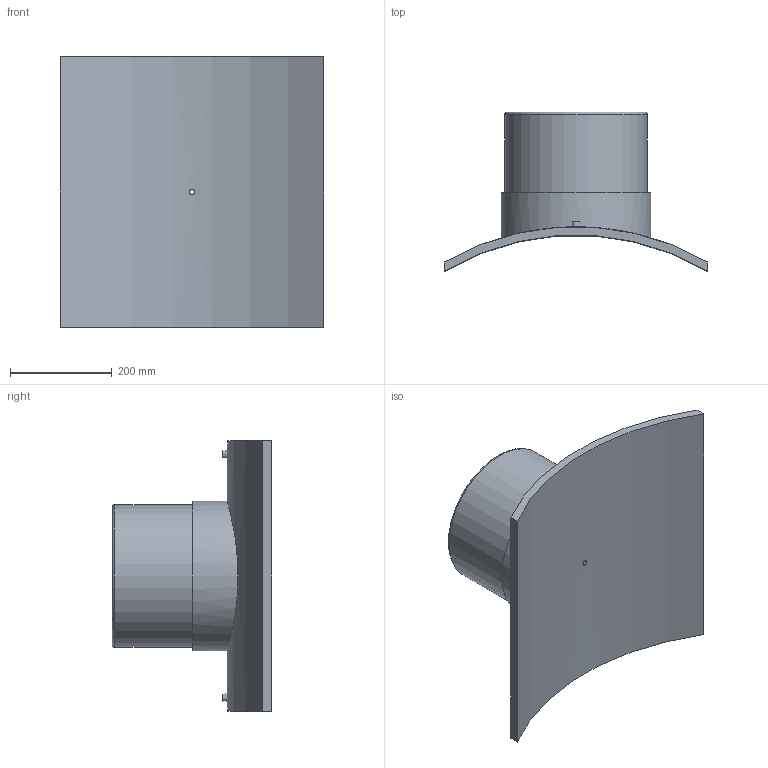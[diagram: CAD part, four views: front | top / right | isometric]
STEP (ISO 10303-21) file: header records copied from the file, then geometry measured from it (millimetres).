
FILE_DESCRIPTION(/* description */ ('PLASSON BRANCH SADDLE 1000x280'),/* implementation_level */ '2;1');
FILE_NAME(/* name */ 'C:\Dropbox\99-16-3568-Processing\ElectroFusion Fittings\495803\4958031000280T.ipt.stp',/* time_stamp */ '2021-02-25T09:43:10+02:00',/* author */ ('KIM'),/* organization */ (''),/* preprocessor_version */ 'ST-DEVELOPER v17.2',/* originating_system */ 'Autodesk Inventor 2019',/* authorisation */ '');
FILE_SCHEMA (('AUTOMOTIVE_DESIGN { 1 0 10303 214 3 1 1 }'));
Length unit declared in the file: millimetre
Products named in the file (1): 4958031000280T
Bounding box: 516 x 312.71 x 530 mm (x, y, z)
Volume: 10248222.4 mm3; surface area: 991607.8 mm2
Topology: 1 solids, 1 shells, 29 faces, 60 edges, 43 vertices
Faces by surface type: plane 13, cylinder 12, torus 2, cone 2
Full cylindrical faces by diameter (mm): 4 x2, 9.6 x1, 10 x2, 16 x1, 224 x1, 280 x1, 294 x1
Entity records: 1086 total; most frequent: CARTESIAN_POINT 400, DIRECTION 139, ORIENTED_EDGE 120, EDGE_CURVE 60, AXIS2_PLACEMENT_3D 60, VERTEX_POINT 43, EDGE_LOOP 41, CIRCLE 30
